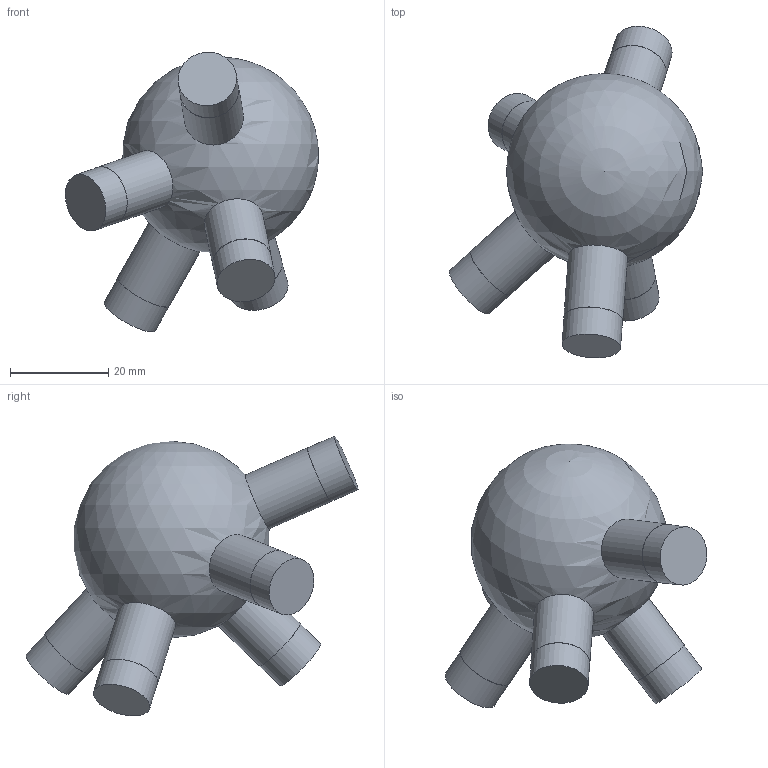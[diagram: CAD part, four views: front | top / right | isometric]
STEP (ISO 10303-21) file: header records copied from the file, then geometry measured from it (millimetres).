
FILE_DESCRIPTION(('Open CASCADE Model'),'2;1');
FILE_NAME('Open CASCADE Shape Model','2026-10-21T12:47:57',('Author'),( 'Open CASCADE'),'Open CASCADE STEP processor 7.9','Open CASCADE 7.9' ,'Unknown');
FILE_SCHEMA(('AUTOMOTIVE_DESIGN { 1 0 10303 214 1 1 1 1 }'));
Length unit declared in the file: millimetre
Products named in the file (1): Open CASCADE STEP translator 7.9 99
Bounding box: 51.49 x 67.51 x 56.86 mm (x, y, z)
Volume: 43947.2 mm3; surface area: 8589 mm2
Topology: 1 solids, 1 shells, 21 faces, 33 edges, 22 vertices
Faces by surface type: cylinder 10, plane 10, sphere 1
Full cylindrical faces by diameter (mm): 11.9 x5, 12 x5
Entity records: 1206 total; most frequent: CARTESIAN_POINT 481, DIRECTION 149, ORIENTED_EDGE 60, PCURVE 60, DEFINITIONAL_REPRESENTATION 60, LINE 50, VECTOR 50, AXIS2_PLACEMENT_3D 42
